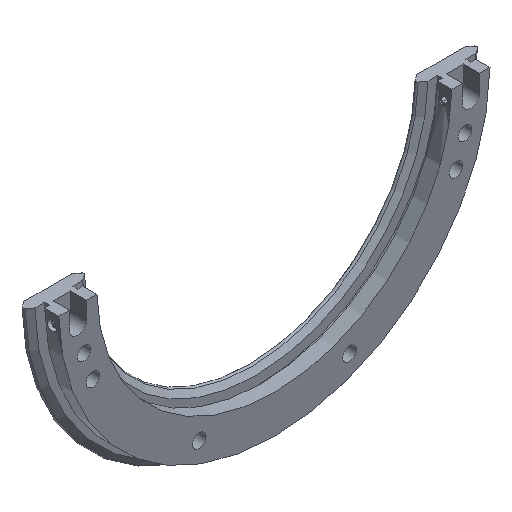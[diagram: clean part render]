
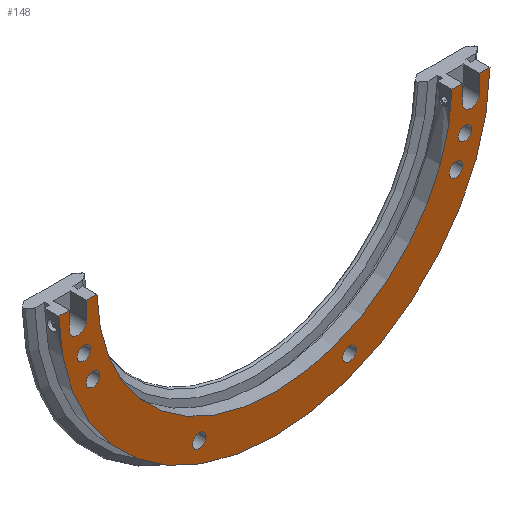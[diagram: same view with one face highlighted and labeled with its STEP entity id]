
A CAD part, isometric view. The second image highlights one B-rep face of the part: STEP entity #148.
In plain terms, the highlighted planar face has unit normal (0, -1, 0).
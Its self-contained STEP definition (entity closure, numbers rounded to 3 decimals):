
#148 = ADVANCED_FACE( '', ( #336, #337, #338, #339, #340, #341, #342 ), #343, .T. );
#336 = FACE_BOUND( '', #539, .T. );
#337 = FACE_BOUND( '', #540, .T. );
#338 = FACE_BOUND( '', #541, .T. );
#339 = FACE_BOUND( '', #542, .T. );
#340 = FACE_BOUND( '', #543, .T. );
#341 = FACE_BOUND( '', #544, .T. );
#342 = FACE_OUTER_BOUND( '', #545, .T. );
#343 = PLANE( '', #546 );
#539 = EDGE_LOOP( '', ( #1073 ) );
#540 = EDGE_LOOP( '', ( #1074 ) );
#541 = EDGE_LOOP( '', ( #1075 ) );
#542 = EDGE_LOOP( '', ( #1076 ) );
#543 = EDGE_LOOP( '', ( #1077 ) );
#544 = EDGE_LOOP( '', ( #1078 ) );
#545 = EDGE_LOOP( '', ( #1079, #1080, #1081, #1082, #1083, #1084, #1085, #1086, #1087, #1088, #1089, #1090 ) );
#546 = AXIS2_PLACEMENT_3D( '', #1091, #1092, #1093 );
#1073 = ORIENTED_EDGE( '', *, *, #1303, .F. );
#1074 = ORIENTED_EDGE( '', *, *, #1300, .F. );
#1075 = ORIENTED_EDGE( '', *, *, #1285, .F. );
#1076 = ORIENTED_EDGE( '', *, *, #1282, .F. );
#1077 = ORIENTED_EDGE( '', *, *, #1188, .F. );
#1078 = ORIENTED_EDGE( '', *, *, #1192, .F. );
#1079 = ORIENTED_EDGE( '', *, *, #1310, .T. );
#1080 = ORIENTED_EDGE( '', *, *, #1304, .T. );
#1081 = ORIENTED_EDGE( '', *, *, #1155, .T. );
#1082 = ORIENTED_EDGE( '', *, *, #1321, .F. );
#1083 = ORIENTED_EDGE( '', *, *, #1322, .T. );
#1084 = ORIENTED_EDGE( '', *, *, #1184, .T. );
#1085 = ORIENTED_EDGE( '', *, *, #1181, .T. );
#1086 = ORIENTED_EDGE( '', *, *, #1186, .T. );
#1087 = ORIENTED_EDGE( '', *, *, #1323, .T. );
#1088 = ORIENTED_EDGE( '', *, *, #1213, .T. );
#1089 = ORIENTED_EDGE( '', *, *, #1159, .T. );
#1090 = ORIENTED_EDGE( '', *, *, #1309, .T. );
#1091 = CARTESIAN_POINT( '', ( -71.8, 0., 0. ) );
#1092 = DIRECTION( '', ( 0., -1., 0. ) );
#1093 = DIRECTION( '', ( 0., 0., -1. ) );
#1155 = EDGE_CURVE( '', #1332, #1333, #1334, .T. );
#1159 = EDGE_CURVE( '', #1341, #1339, #1342, .T. );
#1181 = EDGE_CURVE( '', #1384, #1385, #1386, .T. );
#1184 = EDGE_CURVE( '', #1389, #1384, #1390, .T. );
#1186 = EDGE_CURVE( '', #1385, #1392, #1393, .T. );
#1188 = EDGE_CURVE( '', #1395, #1395, #1396, .T. );
#1192 = EDGE_CURVE( '', #1403, #1403, #1404, .T. );
#1213 = EDGE_CURVE( '', #1440, #1341, #1441, .T. );
#1282 = EDGE_CURVE( '', #1559, #1559, #1560, .T. );
#1285 = EDGE_CURVE( '', #1565, #1565, #1566, .T. );
#1300 = EDGE_CURVE( '', #1589, #1589, #1590, .T. );
#1303 = EDGE_CURVE( '', #1595, #1595, #1596, .T. );
#1304 = EDGE_CURVE( '', #1597, #1332, #1598, .T. );
#1309 = EDGE_CURVE( '', #1339, #1604, #1606, .T. );
#1310 = EDGE_CURVE( '', #1604, #1597, #1607, .T. );
#1321 = EDGE_CURVE( '', #1623, #1333, #1624, .T. );
#1322 = EDGE_CURVE( '', #1623, #1389, #1625, .T. );
#1323 = EDGE_CURVE( '', #1392, #1440, #1626, .T. );
#1332 = VERTEX_POINT( '', #1636 );
#1333 = VERTEX_POINT( '', #1637 );
#1334 = LINE( '', #1638, #1639 );
#1339 = VERTEX_POINT( '', #1646 );
#1341 = VERTEX_POINT( '', #1649 );
#1342 = LINE( '', #1650, #1651 );
#1384 = VERTEX_POINT( '', #1790 );
#1385 = VERTEX_POINT( '', #1791 );
#1386 = CIRCLE( '', #1792, 3.5 );
#1389 = VERTEX_POINT( '', #1797 );
#1390 = LINE( '', #1798, #1799 );
#1392 = VERTEX_POINT( '', #1802 );
#1393 = LINE( '', #1803, #1804 );
#1395 = VERTEX_POINT( '', #1807 );
#1396 = CIRCLE( '', #1808, 2.75 );
#1403 = VERTEX_POINT( '', #1815 );
#1404 = CIRCLE( '', #1816, 2.75 );
#1440 = VERTEX_POINT( '', #1916 );
#1441 = CIRCLE( '', #1917, 87.2 );
#1559 = VERTEX_POINT( '', #2210 );
#1560 = CIRCLE( '', #2211, 2.75 );
#1565 = VERTEX_POINT( '', #2216 );
#1566 = CIRCLE( '', #2217, 2.75 );
#1589 = VERTEX_POINT( '', #2252 );
#1590 = CIRCLE( '', #2253, 2.75 );
#1595 = VERTEX_POINT( '', #2258 );
#1596 = CIRCLE( '', #2259, 2.75 );
#1597 = VERTEX_POINT( '', #2260 );
#1598 = LINE( '', #2261, #2262 );
#1604 = VERTEX_POINT( '', #2271 );
#1606 = LINE( '', #2274, #2275 );
#1607 = CIRCLE( '', #2276, 3.5 );
#1623 = VERTEX_POINT( '', #2298 );
#1624 = CIRCLE( '', #2299, 71.8 );
#1625 = LINE( '', #2300, #2301 );
#1626 = LINE( '', #2302, #2303 );
#1636 = CARTESIAN_POINT( '', ( 76., 0., -1.5 ) );
#1637 = CARTESIAN_POINT( '', ( 71.784, 0., -1.5 ) );
#1638 = CARTESIAN_POINT( '', ( 92.37, 0., -1.5 ) );
#1639 = VECTOR( '', #2338, 1000. );
#1646 = CARTESIAN_POINT( '', ( 83., 0., -1.5 ) );
#1649 = CARTESIAN_POINT( '', ( 87.187, 0., -1.5 ) );
#1650 = CARTESIAN_POINT( '', ( 92.37, 0., -1.5 ) );
#1651 = VECTOR( '', #2342, 1000. );
#1790 = CARTESIAN_POINT( '', ( -76., 0., -8.5 ) );
#1791 = CARTESIAN_POINT( '', ( -83., 0., -8.5 ) );
#1792 = AXIS2_PLACEMENT_3D( '', #2361, #2362, #2363 );
#1797 = CARTESIAN_POINT( '', ( -76., 0., -1.5 ) );
#1798 = CARTESIAN_POINT( '', ( -76., 0., 0. ) );
#1799 = VECTOR( '', #2366, 1000. );
#1802 = CARTESIAN_POINT( '', ( -83., 0., -1.5 ) );
#1803 = CARTESIAN_POINT( '', ( -83., 0., -8.5 ) );
#1804 = VECTOR( '', #2368, 1000. );
#1807 = CARTESIAN_POINT( '', ( -73.448, 0., -33.173 ) );
#1808 = AXIS2_PLACEMENT_3D( '', #2370, #2371, #2372 );
#1815 = CARTESIAN_POINT( '', ( -30.423, 0., -76.198 ) );
#1816 = AXIS2_PLACEMENT_3D( '', #2382, #2383, #2384 );
#1916 = CARTESIAN_POINT( '', ( -87.187, 0., -1.5 ) );
#1917 = AXIS2_PLACEMENT_3D( '', #2431, #2432, #2433 );
#2210 = CARTESIAN_POINT( '', ( 30.423, 0., -76.198 ) );
#2211 = AXIS2_PLACEMENT_3D( '', #2510, #2511, #2512 );
#2216 = CARTESIAN_POINT( '', ( 73.448, 0., -33.173 ) );
#2217 = AXIS2_PLACEMENT_3D( '', #2519, #2520, #2521 );
#2252 = CARTESIAN_POINT( '', ( -77.071, 0., -22.252 ) );
#2253 = AXIS2_PLACEMENT_3D( '', #2540, #2541, #2542 );
#2258 = CARTESIAN_POINT( '', ( 77.071, 0., -22.252 ) );
#2259 = AXIS2_PLACEMENT_3D( '', #2549, #2550, #2551 );
#2260 = CARTESIAN_POINT( '', ( 76., 0., -8.5 ) );
#2261 = CARTESIAN_POINT( '', ( 76., 0., -8.5 ) );
#2262 = VECTOR( '', #2552, 1000. );
#2271 = CARTESIAN_POINT( '', ( 83., 0., -8.5 ) );
#2274 = CARTESIAN_POINT( '', ( 83., 0., 0. ) );
#2275 = VECTOR( '', #2557, 1000. );
#2276 = AXIS2_PLACEMENT_3D( '', #2558, #2559, #2560 );
#2298 = CARTESIAN_POINT( '', ( -71.784, 0., -1.5 ) );
#2299 = AXIS2_PLACEMENT_3D( '', #2582, #2583, #2584 );
#2300 = CARTESIAN_POINT( '', ( 92.37, 0., -1.5 ) );
#2301 = VECTOR( '', #2585, 1000. );
#2302 = CARTESIAN_POINT( '', ( 92.37, 0., -1.5 ) );
#2303 = VECTOR( '', #2586, 1000. );
#2338 = DIRECTION( '', ( -1., 0., 0. ) );
#2342 = DIRECTION( '', ( -1., 0., 0. ) );
#2361 = CARTESIAN_POINT( '', ( -79.5, 0., -8.5 ) );
#2362 = DIRECTION( '', ( 0., 1., 0. ) );
#2363 = DIRECTION( '', ( 1., 0., 0. ) );
#2366 = DIRECTION( '', ( 0., 0., -1. ) );
#2368 = DIRECTION( '', ( 0., 0., 1. ) );
#2370 = CARTESIAN_POINT( '', ( -73.448, 0., -30.423 ) );
#2371 = DIRECTION( '', ( 0., -1., 0. ) );
#2372 = DIRECTION( '', ( 0., 0., -1. ) );
#2382 = CARTESIAN_POINT( '', ( -30.423, 0., -73.448 ) );
#2383 = DIRECTION( '', ( 0., -1., 0. ) );
#2384 = DIRECTION( '', ( 0., 0., -1. ) );
#2431 = CARTESIAN_POINT( '', ( 0., 0., 0. ) );
#2432 = DIRECTION( '', ( 0., -1., 0. ) );
#2433 = DIRECTION( '', ( 0., 0., -1. ) );
#2510 = CARTESIAN_POINT( '', ( 30.423, 0., -73.448 ) );
#2511 = DIRECTION( '', ( 0., -1., 0. ) );
#2512 = DIRECTION( '', ( 0., 0., -1. ) );
#2519 = CARTESIAN_POINT( '', ( 73.448, 0., -30.423 ) );
#2520 = DIRECTION( '', ( 0., -1., 0. ) );
#2521 = DIRECTION( '', ( 0., 0., -1. ) );
#2540 = CARTESIAN_POINT( '', ( -77.071, 0., -19.502 ) );
#2541 = DIRECTION( '', ( 0., -1., 0. ) );
#2542 = DIRECTION( '', ( 0., 0., -1. ) );
#2549 = CARTESIAN_POINT( '', ( 77.071, 0., -19.502 ) );
#2550 = DIRECTION( '', ( 0., -1., 0. ) );
#2551 = DIRECTION( '', ( 0., 0., -1. ) );
#2552 = DIRECTION( '', ( 0., 0., 1. ) );
#2557 = DIRECTION( '', ( 0., 0., -1. ) );
#2558 = CARTESIAN_POINT( '', ( 79.5, 0., -8.5 ) );
#2559 = DIRECTION( '', ( 0., 1., 0. ) );
#2560 = DIRECTION( '', ( 1., 0., 0. ) );
#2582 = CARTESIAN_POINT( '', ( 0., 0., 0. ) );
#2583 = DIRECTION( '', ( 0., -1., 0. ) );
#2584 = DIRECTION( '', ( 0., 0., -1. ) );
#2585 = DIRECTION( '', ( -1., 0., 0. ) );
#2586 = DIRECTION( '', ( -1., 0., 0. ) );
